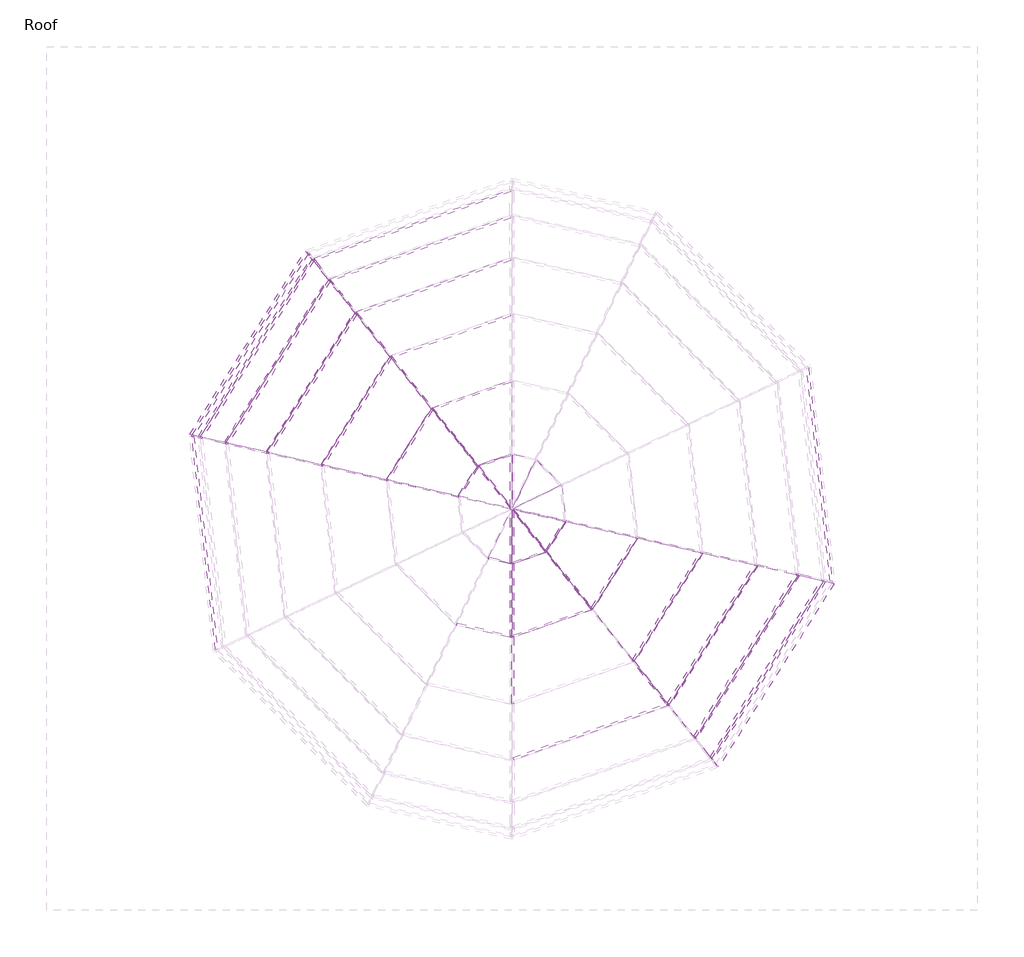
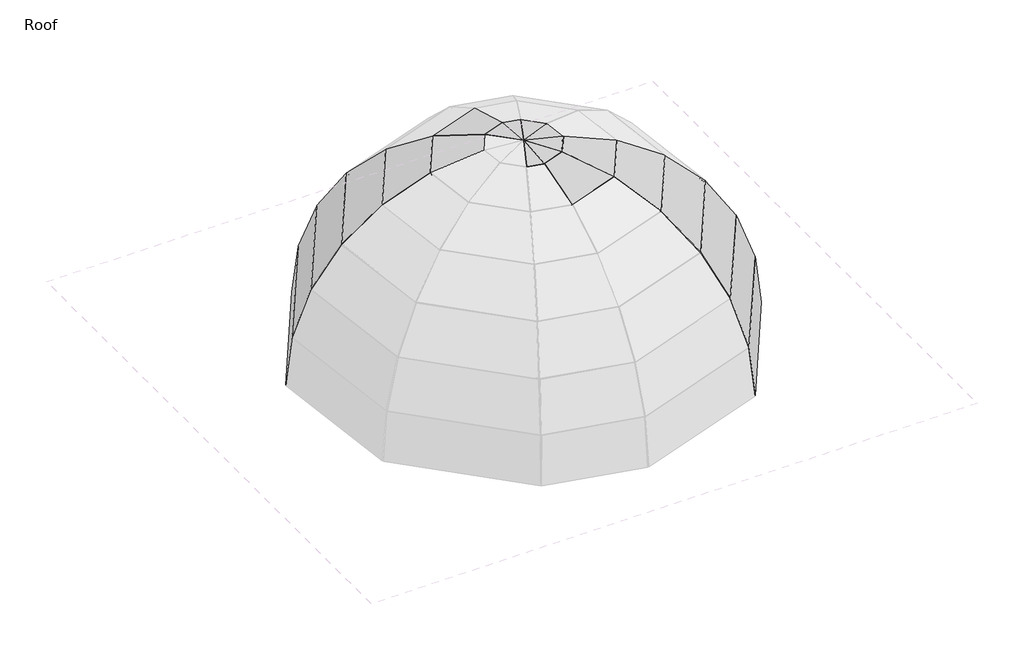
# One storey, part 2 of 3: 56 members, 21 plates.
"""IFC4 building model written with IfcOpenShell, lengths in millimetres."""

from ifc_helpers import new_model, si_unit, origin, place, context, project, spatial, transform, mapped, element, save
from components import member_656cd931, member_2d90878b, member_930283e5, member_073c649d, member_69438c30, member_4b421d57, member_ba738cde, member_c2c97b2d, member_1d24c50e, member_f6a73803, member_f69cc8ce, member_88023728, member_fe320f98, member_b04beb07, member_87472d51, member_b7d01548, member_1e756ab6, member_db3310ab, member_615ff259, member_2fdd2993, member_88dc7c51, member_19a4d049, member_8c9737d1, member_600e1e00, system_panel_glazed_566e1773, system_panel_glazed_15b653d3, system_panel_glazed_7bc4ba0a, system_panel_glazed_db51fd20, system_panel_glazed_c7a8e9dd, system_panel_glazed_54dd6e29, system_panel_glazed_a31f133a, system_panel_glazed_5800e615, system_panel_glazed_d5916fc8, system_panel_glazed_b874945b, system_panel_glazed_13e35390, system_panel_glazed_236f582e, system_panel_glazed_158996e0

model = new_model("IFC4")

# Units and contexts
model_context = context("Model", 3, world=origin())
ifc_project = project(units=[si_unit("LENGTHUNIT", "METRE", prefix="MILLI")], contexts=[model_context])

# Site, building, storey
site = spatial("IfcSite", under=ifc_project)
building = spatial("IfcBuilding", under=site)
storey = spatial("IfcBuildingStorey", under=building, Name="Roof", Elevation=15240.0)

# Members
placement = place(None, origin())
member_shape = member_656cd931(model_context)
element("IfcMember", 1, ObjectType="Rectangular Mullion : 1\" Square", at=placement, inside=storey, context=model_context, shape_type="MappedRepresentation", body=[
    mapped(member_shape, transform((245.314252, -40.0819495, 22859.9992944), x_axis=(0.9995722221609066, 0.00245611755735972, 0.029143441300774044), y_axis=(-0.029246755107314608, 0.08394322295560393, 0.9960412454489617), z_axis=(0.0, -0.9964675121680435, 0.0839791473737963))),
])
element("IfcMember", 2, ObjectType="Rectangular Mullion : 1\" Square", at=placement, inside=storey, context=model_context, shape_type="MappedRepresentation", body=[
    mapped(member_shape, transform((245.314252, -45.1619495, 22859.9992944), x_axis=(-0.9995722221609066, -0.0024561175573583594, 0.029143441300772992), y_axis=(0.02924675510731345, -0.08394322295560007, 0.996041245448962), z_axis=(0.0, 0.996467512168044, 0.08397914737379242))),
])
member_2_shape = member_2d90878b(model_context)
element("IfcMember", 3, ObjectType="Rectangular Mullion : 1\" Square", at=placement, inside=storey, context=model_context, shape_type="MappedRepresentation", body=[
    mapped(member_2_shape, transform((-2603.0395319, 3533.6980476, 18288.0), x_axis=(-0.782222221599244, -0.6229995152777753, 0.0), y_axis=(-0.618745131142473, 0.7768805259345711, 0.11666666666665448), z_axis=(-0.07268327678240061, 0.09125925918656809, -0.9931711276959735))),
])
element("IfcMember", 4, ObjectType="Rectangular Mullion : 1\" Square", at=placement, inside=storey, context=model_context, shape_type="MappedRepresentation", body=[
    mapped(member_2_shape, transform((-4210.7769964, 980.3320016, 18288.0), x_axis=(-0.22374320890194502, -0.9746481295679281, 0.0), y_axis=(-0.9679923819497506, 0.22221529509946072, 0.11666666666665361), z_axis=(-0.11370894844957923, 0.026103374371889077, -0.9931711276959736))),
])
element("IfcMember", 5, ObjectType="Rectangular Mullion : 1\" Square", at=placement, inside=storey, context=model_context, shape_type="MappedRepresentation", body=[
    mapped(member_2_shape, transform((4701.4055004, -1065.5759006, 18288.0), x_axis=(0.2237432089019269, 0.9746481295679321, 0.0), y_axis=(0.9679923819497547, -0.22221529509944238, 0.11666666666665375), z_axis=(0.11370894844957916, -0.026103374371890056, -0.9931711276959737))),
])
member_3_shape = member_930283e5(model_context)
element("IfcMember", 6, ObjectType="Rectangular Mullion : 1\" Square", at=placement, inside=storey, context=model_context, shape_type="MappedRepresentation", body=[
    mapped(member_3_shape, transform((-2513.5123796, 3440.5334561, 19347.514959), x_axis=(0.08074328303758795, -0.2309832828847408, 0.9696015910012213), y_axis=(-0.3199522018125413, 0.9152911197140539, 0.2446890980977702), z_axis=(-0.9439868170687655, -0.32998316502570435, 0.0))),
])
member_4_shape = member_073c649d(model_context)
element("IfcMember", 7, ObjectType="Rectangular Mullion : 1\" Square", at=placement, inside=storey, context=model_context, shape_type="MappedRepresentation", body=[
    mapped(member_4_shape, transform((-4082.7053732, 963.2319602, 19347.514959), x_axis=(0.2070616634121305, -0.13037723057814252, 0.9696015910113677), y_axis=(-0.8204996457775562, 0.5166309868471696, 0.2446890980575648), z_axis=(-0.5328281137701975, -0.8462234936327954, 0.0))),
])
element("IfcMember", 8, ObjectType="Rectangular Mullion : 1\" Square", at=placement, inside=storey, context=model_context, shape_type="MappedRepresentation", body=[
    mapped(member_4_shape, transform((4573.3338771, -1048.4758592, 19347.514959), x_axis=(-0.20706166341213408, 0.13037723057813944, 0.9696015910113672), y_axis=(0.8204996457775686, -0.5166309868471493, 0.24468909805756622), z_axis=(0.5328281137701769, 0.8462234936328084, 0.0))),
])
member_5_shape = member_69438c30(model_context)
element("IfcMember", 9, ObjectType="Rectangular Mullion : 1\" Square", at=placement, inside=storey, context=model_context, shape_type="MappedRepresentation", body=[
    mapped(member_5_shape, transform((-2285.1183622, 3153.7677825, 20349.3452147), x_axis=(0.1556834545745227, -0.44536553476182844, 0.8817098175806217), y_axis=(-0.29094939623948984, 0.8323224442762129, 0.47179211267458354), z_axis=(-0.9439868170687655, -0.3299831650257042, 0.0))),
])
member_6_shape = member_4b421d57(model_context)
element("IfcMember", 10, ObjectType="Rectangular Mullion : 1\" Square", at=placement, inside=storey, context=model_context, shape_type="MappedRepresentation", body=[
    mapped(member_6_shape, transform((-3725.3956219, 881.2068396, 20349.3452147), x_axis=(0.3992415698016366, -0.2513841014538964, 0.8817098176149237), y_axis=(-0.7461235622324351, 0.46979977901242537, 0.47179211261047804), z_axis=(-0.5328281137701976, -0.8462234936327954, 0.0))),
])
element("IfcMember", 11, ObjectType="Rectangular Mullion : 1\" Square", at=placement, inside=storey, context=model_context, shape_type="MappedRepresentation", body=[
    mapped(member_6_shape, transform((4216.0241258, -966.4507387, 20349.3452147), x_axis=(-0.39924156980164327, 0.25138410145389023, 0.8817098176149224), y_axis=(0.7461235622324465, -0.469799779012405, 0.47179211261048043), z_axis=(0.5328281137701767, 0.8462234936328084, 0.0))),
])
member_7_shape = member_ba738cde(model_context)
element("IfcMember", 12, ObjectType="Rectangular Mullion : 1\" Square", at=placement, inside=storey, context=model_context, shape_type="MappedRepresentation", body=[
    mapped(member_7_shape, transform((-1918.3036325, 2693.2046107, 21238.9466754), x_axis=(0.22008945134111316, -0.629612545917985, 0.7450829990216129), y_axis=(-0.24586484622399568, 0.7033485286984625, 0.6669717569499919), z_axis=(-0.9439868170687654, -0.3299831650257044, 0.0))),
])
element("IfcMember", 13, ObjectType="Rectangular Mullion : 1\" Square", at=placement, inside=storey, context=model_context, shape_type="MappedRepresentation", body=[
    mapped(member_7_shape, transform((2408.9321365, -2778.4485097, 21238.9466754), x_axis=(-0.22008945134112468, 0.6296125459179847, 0.7450829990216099), y_axis=(0.2458648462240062, -0.7033485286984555, 0.6669717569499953), z_axis=(0.94398681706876, 0.3299831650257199, 0.0))),
])
member_8_shape = member_c2c97b2d(model_context)
element("IfcMember", 14, ObjectType="Rectangular Mullion : 1\" Square", at=placement, inside=storey, context=model_context, shape_type="MappedRepresentation", body=[
    mapped(member_8_shape, transform((-3151.5343564, 749.4694904, 21238.9466754), x_axis=(0.5644071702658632, -0.35538130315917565, 0.7450829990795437), y_axis=(-0.6305067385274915, 0.39700116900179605, 0.6669717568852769), z_axis=(-0.5328281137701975, -0.8462234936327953, 0.0))),
])
element("IfcMember", 15, ObjectType="Rectangular Mullion : 1\" Square", at=placement, inside=storey, context=model_context, shape_type="MappedRepresentation", body=[
    mapped(member_8_shape, transform((3642.1628604, -834.7133895, 21238.9466754), x_axis=(-0.5644071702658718, 0.3553813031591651, 0.7450829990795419), y_axis=(0.6305067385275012, -0.3970011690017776, 0.6669717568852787), z_axis=(0.5328281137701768, 0.8462234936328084, 0.0))),
])
member_9_shape = member_1d24c50e(model_context)
element("IfcMember", 16, ObjectType="Rectangular Mullion : 1\" Square", at=placement, inside=storey, context=model_context, shape_type="MappedRepresentation", body=[
    mapped(member_9_shape, transform((-1433.0392147, 2083.9190467, 21967.8854838), x_axis=(0.27083883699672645, -0.7747919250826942, 0.5712650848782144), y_axis=(-0.18850786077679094, 0.5392667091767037, 0.8207656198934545), z_axis=(-0.9439868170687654, -0.3299831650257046, 0.0))),
])
member_10_shape = member_f6a73803(model_context)
element("IfcMember", 17, ObjectType="Rectangular Mullion : 1\" Square", at=placement, inside=storey, context=model_context, shape_type="MappedRepresentation", body=[
    mapped(member_10_shape, transform((-2392.3651346, 575.1922793, 21967.8854838), x_axis=(0.6945511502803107, -0.4373269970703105, 0.5712650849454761), y_axis=(-0.48341793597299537, 0.30438609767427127, 0.8207656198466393), z_axis=(-0.5328281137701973, -0.8462234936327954, 0.0))),
])
element("IfcMember", 18, ObjectType="Rectangular Mullion : 1\" Square", at=placement, inside=storey, context=model_context, shape_type="MappedRepresentation", body=[
    mapped(member_10_shape, transform((2882.9936385, -660.4361784, 21967.8854838), x_axis=(-0.6945511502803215, 0.43732699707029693, 0.5712650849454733), y_axis=(0.48341793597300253, -0.3043860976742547, 0.8207656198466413), z_axis=(0.5328281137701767, 0.8462234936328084, 0.0))),
])
member_11_shape = member_f69cc8ce(model_context)
element("IfcMember", 19, ObjectType="Rectangular Mullion : 1\" Square", at=placement, inside=storey, context=model_context, shape_type="MappedRepresentation", body=[
    mapped(member_11_shape, transform((-855.7450603, 1359.0833047, 22496.4749713), x_axis=(0.3063030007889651, -0.8762446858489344, 0.37198618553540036), y_axis=(-0.12274917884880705, 0.35115005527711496, 0.9282382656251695), z_axis=(-0.9439868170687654, -0.32998316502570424, 0.0))),
])
element("IfcMember", 20, ObjectType="Rectangular Mullion : 1\" Square", at=placement, inside=storey, context=model_context, shape_type="MappedRepresentation", body=[
    mapped(member_11_shape, transform((1346.3735642, -1444.3272037, 22496.4749713), x_axis=(-0.3063030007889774, 0.876244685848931, 0.37198618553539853), y_axis=(0.12274917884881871, -0.35115005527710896, 0.9282382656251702), z_axis=(0.94398681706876, 0.32998316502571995, 0.0))),
])
member_12_shape = member_88023728(model_context)
element("IfcMember", 21, ObjectType="Rectangular Mullion : 1\" Square", at=placement, inside=storey, context=model_context, shape_type="MappedRepresentation", body=[
    mapped(member_12_shape, transform((-1489.2205029, 367.8636323, 22496.4749713), x_axis=(0.7854970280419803, -0.4945914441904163, 0.3719861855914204), y_axis=(-0.3147834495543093, 0.198204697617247, 0.9282382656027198), z_axis=(-0.532828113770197, -0.8462234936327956, 0.0))),
])
element("IfcMember", 22, ObjectType="Rectangular Mullion : 1\" Square", at=placement, inside=storey, context=model_context, shape_type="MappedRepresentation", body=[
    mapped(member_12_shape, transform((1979.8490068, -453.1075314, 22496.4749713), x_axis=(-0.7854970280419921, 0.49459144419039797, 0.3719861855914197), y_axis=(0.31478344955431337, -0.19820469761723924, 0.92823826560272), z_axis=(0.5328281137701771, 0.846223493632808, 0.0))),
])
member_13_shape = member_fe320f98(model_context)
element("IfcMember", 23, ObjectType="Rectangular Mullion : 1\" Square", at=placement, inside=storey, context=model_context, shape_type="MappedRepresentation", body=[
    mapped(member_13_shape, transform((220.5581895, -1823.534074, 22496.4749713), x_axis=(0.20674485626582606, 0.900601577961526, 0.3823262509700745), y_axis=(-0.08554290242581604, -0.3726335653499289, 0.9240274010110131), z_axis=(0.9746481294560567, -0.22374320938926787, 0.0))),
])
member_14_shape = member_b04beb07(model_context)
element("IfcMember", 24, ObjectType="Rectangular Mullion : 1\" Square", at=placement, inside=storey, context=model_context, shape_type="MappedRepresentation", body=[
    mapped(member_14_shape, transform((-217.8516289, 558.1606638, 22795.9363771), x_axis=(0.3258534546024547, -0.9321729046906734, 0.1577124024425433), y_axis=(-0.05204243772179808, 0.14887842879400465, 0.9874850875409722), z_axis=(-0.9439868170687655, -0.3299831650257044, 0.0))),
])
element("IfcMember", 25, ObjectType="Rectangular Mullion : 1\" Square", at=placement, inside=storey, context=model_context, shape_type="MappedRepresentation", body=[
    mapped(member_14_shape, transform((708.4801329, -643.4045629, 22795.9363771), x_axis=(-0.32585345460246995, 0.9321729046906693, 0.15771240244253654), y_axis=(0.052042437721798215, -0.14887842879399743, 0.9874850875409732), z_axis=(0.9439868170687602, 0.32998316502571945, 0.0))),
])
member_15_shape = member_87472d51(model_context)
element("IfcMember", 26, ObjectType="Rectangular Mullion : 1\" Square", at=placement, inside=storey, context=model_context, shape_type="MappedRepresentation", body=[
    mapped(member_15_shape, transform((-491.271669, 138.7714424, 22795.9363771), x_axis=(0.8356330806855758, -0.5261598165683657, 0.1577124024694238), y_axis=(-0.13345994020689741, 0.08403360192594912, 0.987485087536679), z_axis=(-0.5328281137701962, -0.846223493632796, 0.0))),
])
element("IfcMember", 27, ObjectType="Rectangular Mullion : 1\" Square", at=placement, inside=storey, context=model_context, shape_type="MappedRepresentation", body=[
    mapped(member_15_shape, transform((981.900173, -224.0153415, 22795.9363771), x_axis=(-0.835633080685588, 0.5261598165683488, 0.1577124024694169), y_axis=(0.13345994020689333, -0.08403360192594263, 0.9874850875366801), z_axis=(0.5328281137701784, 0.8462234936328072, 0.0))),
])
member_16_shape = member_b7d01548(model_context)
element("IfcMember", 28, ObjectType="Rectangular Mullion : 1\" Square", at=placement, inside=storey, context=model_context, shape_type="MappedRepresentation", body=[
    mapped(member_16_shape, transform((220.5581895, -799.627288, 22795.9363771), x_axis=(0.22076190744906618, 0.9616612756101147, 0.16270147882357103), y_axis=(-0.03640335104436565, -0.15857669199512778, 0.9866753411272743), z_axis=(0.9746481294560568, -0.223743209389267, 0.0))),
])
member_17_shape = member_1e756ab6(model_context)
element("IfcMember", 29, ObjectType="Rectangular Mullion : 1\" Square", at=placement, inside=storey, context=model_context, shape_type="MappedRepresentation", body=[
    mapped(member_17_shape, transform((-2609.8064489, 3522.9510093, 18288.0), x_axis=(-0.09326525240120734, 0.05872485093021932, -0.9939079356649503), y_axis=(-0.841068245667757, 0.5295820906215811, 0.11021349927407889), z_axis=(0.5328281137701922, 0.8462234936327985, 0.0))),
])
element("IfcMember", 30, ObjectType="Rectangular Mullion : 1\" Square", at=placement, inside=storey, context=model_context, shape_type="MappedRepresentation", body=[
    mapped(member_17_shape, transform((-4209.3748296, 967.7096433, 18288.0), x_axis=(-0.10953970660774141, -0.012168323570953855, -0.9939079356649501), y_axis=(-0.9878316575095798, -0.10973422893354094, 0.1102134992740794), z_axis=(-0.1104068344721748, 0.9938864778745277, 0.0))),
])
element("IfcMember", 31, ObjectType="Rectangular Mullion : 1\" Square", at=placement, inside=storey, context=model_context, shape_type="MappedRepresentation", body=[
    mapped(member_17_shape, transform((4700.0033336, -1052.9535424, 18288.0), x_axis=(0.10953970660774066, 0.012168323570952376, -0.9939079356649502), y_axis=(0.9878316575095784, 0.10973422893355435, 0.11021349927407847), z_axis=(0.11040683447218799, -0.9938864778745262, 0.0))),
])
member_18_shape = member_db3310ab(model_context)
element("IfcMember", 32, ObjectType="Rectangular Mullion : 1\" Square", at=placement, inside=storey, context=model_context, shape_type="MappedRepresentation", body=[
    mapped(member_18_shape, transform((245.314252, -1829.2171515, 22496.4749713), x_axis=(0.997930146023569, -0.01805168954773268, 0.061721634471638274), y_axis=(-0.06430725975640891, -0.2801289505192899, 0.9578060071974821), z_axis=(0.0, -0.9597926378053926, -0.28070997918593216))),
])
member_19_shape = member_615ff259(model_context)
element("IfcMember", 33, ObjectType="Rectangular Mullion : 1\" Square", at=placement, inside=storey, context=model_context, shape_type="MappedRepresentation", body=[
    mapped(member_19_shape, transform((245.314252, -805.3103655, 22795.9363771), x_axis=(0.9998154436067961, -0.0016133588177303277, 0.019143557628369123), y_axis=(-0.019211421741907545, -0.08396364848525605, 0.9962836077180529), z_axis=(0.0, -0.9964675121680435, -0.08397914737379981))),
])
member_20_shape = member_2fdd2993(model_context)
element("IfcMember", 34, ObjectType="Rectangular Mullion : 1\" Square", at=placement, inside=storey, context=model_context, shape_type="MappedRepresentation", body=[
    mapped(member_20_shape, transform((245.314252, -1829.2171515, 22496.4749713), x_axis=(-0.9853292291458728, -0.0845625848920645, 0.148241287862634), y_axis=(0.170664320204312, -0.48822147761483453, 0.8558700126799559), z_axis=(0.0, 0.8686132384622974, 0.49549070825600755))),
])
member_21_shape = member_88dc7c51(model_context)
element("IfcMember", 35, ObjectType="Rectangular Mullion : 1\" Square", at=placement, inside=storey, context=model_context, shape_type="MappedRepresentation", body=[
    mapped(member_21_shape, transform((245.314252, -805.3103655, 22795.9363771), x_axis=(-0.9952201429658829, -0.027413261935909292, 0.09373035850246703), y_axis=(0.09765688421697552, -0.2793682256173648, 0.9552049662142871), z_axis=(0.0, 0.959792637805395, 0.2807099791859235))),
])
member_22_shape = member_19a4d049(model_context)
element("IfcMember", 36, ObjectType="Rectangular Mullion : 1\" Square", at=placement, inside=storey, context=model_context, shape_type="MappedRepresentation", body=[
    mapped(member_22_shape, transform((-2525.5010122, 3436.3426699, 19347.514959), x_axis=(-0.7822222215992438, -0.6229995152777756, 0.0), y_axis=(-0.5850578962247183, 0.7345836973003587, 0.3436481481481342), z_axis=(-0.21409262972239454, 0.26880921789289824, -0.9390984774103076))),
])
element("IfcMember", 37, ObjectType="Rectangular Mullion : 1\" Square", at=placement, inside=storey, context=model_context, shape_type="MappedRepresentation", body=[
    mapped(member_22_shape, transform((-2297.1069948, 3149.5769963, 20349.3452147), x_axis=(-0.7822222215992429, -0.6229995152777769, 0.0), y_axis=(-0.5195175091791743, 0.6522928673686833, 0.5519198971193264), z_axis=(-0.34384582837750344, 0.431724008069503, -0.8338971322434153))),
])
element("IfcMember", 38, ObjectType="Rectangular Mullion : 1\" Square", at=placement, inside=storey, context=model_context, shape_type="MappedRepresentation", body=[
    mapped(member_22_shape, transform((-1930.2922651, 2689.0138245, 21238.9466754), x_axis=(-0.7822222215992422, -0.6229995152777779, 0.0), y_axis=(-0.4256922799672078, 0.5344883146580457, 0.730142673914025), z_axis=(-0.4548785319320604, 0.571133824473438, -0.6832947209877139))),
])
element("IfcMember", 39, ObjectType="Rectangular Mullion : 1\" Square", at=placement, inside=storey, context=model_context, shape_type="MappedRepresentation", body=[
    mapped(member_22_shape, transform((-1445.0278472, 2079.7282605, 21967.8854838), x_axis=(-0.7822222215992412, -0.6229995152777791, 0.0), y_axis=(-0.30869047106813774, 0.38758384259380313, 0.8686132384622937), z_axis=(-0.5411456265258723, 0.6794485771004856, -0.4954907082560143))),
])
element("IfcMember", 40, ObjectType="Rectangular Mullion : 1\" Square", at=placement, inside=storey, context=model_context, shape_type="MappedRepresentation", body=[
    mapped(member_22_shape, transform((-4089.4722902, 952.4849218, 19347.514959), x_axis=(-0.22374320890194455, -0.9746481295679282, 0.0), y_axis=(-0.9152905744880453, 0.2101169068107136, 0.3436481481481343), z_axis=(-0.33493602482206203, 0.07688893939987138, -0.9390984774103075))),
])
element("IfcMember", 41, ObjectType="Rectangular Mullion : 1\" Square", at=placement, inside=storey, context=model_context, shape_type="MappedRepresentation", body=[
    mapped(member_22_shape, transform((-3732.1625389, 870.4598012, 20349.3452147), x_axis=(-0.22374320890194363, -0.9746481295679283, 0.0), y_axis=(-0.8127562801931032, 0.1865788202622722, 0.5519198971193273), z_axis=(-0.5379276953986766, 0.12348832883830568, -0.8338971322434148))),
])
element("IfcMember", 42, ObjectType="Rectangular Mullion : 1\" Square", at=placement, inside=storey, context=model_context, shape_type="MappedRepresentation", body=[
    mapped(member_22_shape, transform((-3158.3012735, 738.722452, 21238.9466754), x_axis=(-0.22374320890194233, -0.9746481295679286, 0.0), y_axis=(-0.6659719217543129, 0.15288255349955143, 0.7301426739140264), z_axis=(-0.7116321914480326, 0.1633644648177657, -0.6832947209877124))),
])
element("IfcMember", 43, ObjectType="Rectangular Mullion : 1\" Square", at=placement, inside=storey, context=model_context, shape_type="MappedRepresentation", body=[
    mapped(member_22_shape, transform((-2399.1320516, 564.445241, 21967.8854838), x_axis=(-0.22374320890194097, -0.9746481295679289, 0.0), y_axis=(-0.4829290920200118, 0.11086268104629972, 0.8686132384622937), z_axis=(-0.8465922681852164, 0.19434631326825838, -0.49549070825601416))),
])
element("IfcMember", 44, ObjectType="Rectangular Mullion : 1\" Square", at=placement, inside=storey, context=model_context, shape_type="MappedRepresentation", body=[
    mapped(member_22_shape, transform((2420.9207691, -2774.2577235, 21238.9466754), x_axis=(0.782222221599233, 0.6229995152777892, 0.0), y_axis=(0.42569227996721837, -0.5344883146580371, 0.7301426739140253), z_axis=(0.4548785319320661, -0.5711338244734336, -0.6832947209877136))),
])
element("IfcMember", 45, ObjectType="Rectangular Mullion : 1\" Square", at=placement, inside=storey, context=model_context, shape_type="MappedRepresentation", body=[
    mapped(member_22_shape, transform((4580.1007942, -1037.7288208, 19347.514959), x_axis=(0.2237432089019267, 0.9746481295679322, 0.0), y_axis=(0.9152905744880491, -0.21011690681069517, 0.3436481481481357), z_axis=(0.3349360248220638, -0.07688893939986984, -0.9390984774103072))),
])
element("IfcMember", 46, ObjectType="Rectangular Mullion : 1\" Square", at=placement, inside=storey, context=model_context, shape_type="MappedRepresentation", body=[
    mapped(member_22_shape, transform((4222.7910429, -955.7037003, 20349.3452147), x_axis=(0.22374320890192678, 0.9746481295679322, 0.0), y_axis=(0.8127562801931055, -0.18657882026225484, 0.5519198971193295), z_axis=(0.5379276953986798, -0.12348832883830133, -0.8338971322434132))),
])
element("IfcMember", 47, ObjectType="Rectangular Mullion : 1\" Square", at=placement, inside=storey, context=model_context, shape_type="MappedRepresentation", body=[
    mapped(member_22_shape, transform((3648.9297774, -823.9663511, 21238.9466754), x_axis=(0.22374320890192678, 0.9746481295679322, 0.0), y_axis=(0.6659719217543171, -0.15288255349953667, 0.7301426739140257), z_axis=(0.7116321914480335, -0.16336446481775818, -0.6832947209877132))),
])
element("IfcMember", 48, ObjectType="Rectangular Mullion : 1\" Square", at=placement, inside=storey, context=model_context, shape_type="MappedRepresentation", body=[
    mapped(member_22_shape, transform((2889.7605556, -649.68914, 21967.8854838), x_axis=(0.22374320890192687, 0.9746481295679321, 0.0), y_axis=(0.48292909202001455, -0.11086268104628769, 0.8686132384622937), z_axis=(0.8465922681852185, -0.19434631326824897, -0.4954907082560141))),
])
member_23_shape = member_8c9737d1(model_context)
element("IfcMember", 49, ObjectType="Rectangular Mullion : 1\" Square", at=placement, inside=storey, context=model_context, shape_type="MappedRepresentation", body=[
    mapped(member_23_shape, transform((-867.7336929, 1354.8925185, 22496.4749713), x_axis=(-0.7822222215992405, -0.62299951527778, 0.0), y_axis=(-0.17488218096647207, 0.21957758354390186, 0.9597926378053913), z_axis=(-0.5979503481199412, 0.7507711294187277, -0.2807099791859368))),
])
element("IfcMember", 50, ObjectType="Rectangular Mullion : 1\" Square", at=placement, inside=storey, context=model_context, shape_type="MappedRepresentation", body=[
    mapped(member_23_shape, transform((-1495.9874199, 357.116594, 22496.4749713), x_axis=(-0.22374320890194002, -0.9746481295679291, 0.0), y_axis=(-0.2735934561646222, 0.06280695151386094, 0.959792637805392), z_axis=(-0.9354600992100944, 0.21474708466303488, -0.28070997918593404))),
])
element("IfcMember", 51, ObjectType="Rectangular Mullion : 1\" Square", at=placement, inside=storey, context=model_context, shape_type="MappedRepresentation", body=[
    mapped(member_23_shape, transform((1358.3621968, -1440.1364175, 22496.4749713), x_axis=(0.7822222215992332, 0.622999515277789, 0.0), y_axis=(0.17488218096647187, -0.21957758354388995, 0.959792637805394), z_axis=(0.5979503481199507, -0.7507711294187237, -0.2807099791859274))),
])
element("IfcMember", 52, ObjectType="Rectangular Mullion : 1\" Square", at=placement, inside=storey, context=model_context, shape_type="MappedRepresentation", body=[
    mapped(member_23_shape, transform((1986.6159239, -442.360493, 22496.4749713), x_axis=(0.22374320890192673, 0.9746481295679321, 0.0), y_axis=(0.2735934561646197, -0.06280695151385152, 0.9597926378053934), z_axis=(0.9354600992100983, -0.21474708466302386, -0.2807099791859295))),
])
member_24_shape = member_600e1e00(model_context)
element("IfcMember", 53, ObjectType="Rectangular Mullion : 1\" Square", at=placement, inside=storey, context=model_context, shape_type="MappedRepresentation", body=[
    mapped(member_24_shape, transform((-229.8402615, 553.9698776, 22795.9363771), x_axis=(-0.7822222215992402, -0.6229995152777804, 0.0), y_axis=(-0.05231896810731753, 0.06569035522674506, 0.9964675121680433), z_axis=(-0.6207987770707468, 0.7794590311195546, -0.08397914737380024))),
])
element("IfcMember", 54, ObjectType="Rectangular Mullion : 1\" Square", at=placement, inside=storey, context=model_context, shape_type="MappedRepresentation", body=[
    mapped(member_24_shape, transform((-498.0385861, 128.0244041, 22795.9363771), x_axis=(-0.22374320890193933, -0.9746481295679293, 0.0), y_axis=(-0.08185011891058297, 0.01878976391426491, 0.9964675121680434), z_axis=(-0.9712051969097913, 0.22295283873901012, -0.08397914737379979))),
])
element("IfcMember", 55, ObjectType="Rectangular Mullion : 1\" Square", at=placement, inside=storey, context=model_context, shape_type="MappedRepresentation", body=[
    mapped(member_24_shape, transform((720.4687654, -639.2137767, 22795.9363771), x_axis=(0.782222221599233, 0.6229995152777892, 0.0), y_axis=(0.05231896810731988, -0.06569035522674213, 0.9964675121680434), z_axis=(0.6207987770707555, -0.7794590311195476, -0.08397914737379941))),
])
element("IfcMember", 56, ObjectType="Rectangular Mullion : 1\" Square", at=placement, inside=storey, context=model_context, shape_type="MappedRepresentation", body=[
    mapped(member_24_shape, transform((988.6670901, -213.2683031, 22795.9363771), x_axis=(0.22374320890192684, 0.9746481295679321, 0.0), y_axis=(0.08185011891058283, -0.018789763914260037, 0.9964675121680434), z_axis=(0.9712051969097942, -0.222952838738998, -0.08397914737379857))),
])

# Plates
system_panel_glazed_shape = system_panel_glazed_566e1773(model_context)
element("IfcPlate", 57, ObjectType="System Panel : Glazed", at=placement, inside=storey, context=model_context, shape_type="MappedRepresentation", body=[
    mapped(system_panel_glazed_shape, transform((3897.5367681, -2342.2589236, 18288.0), x_axis=(0.532828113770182, 0.846223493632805, 0.0), y_axis=(-0.8410682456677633, 0.5295820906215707, -0.11021349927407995), z_axis=(-0.09326525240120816, 0.058724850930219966, 0.9939079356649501))),
])
element("IfcPlate", 58, ObjectType="System Panel : Glazed", at=placement, inside=storey, context=model_context, shape_type="MappedRepresentation", body=[
    mapped(system_panel_glazed_shape, transform((-3406.9082641, 2257.0150246, 18288.0), x_axis=(-0.5328281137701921, -0.8462234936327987, 0.0), y_axis=(0.8410682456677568, -0.5295820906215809, -0.11021349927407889), z_axis=(0.09326525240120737, -0.0587248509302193, 0.9939079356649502))),
])
system_panel_glazed_2_shape = system_panel_glazed_15b653d3(model_context)
element("IfcPlate", 59, ObjectType="System Panel : Glazed", at=placement, inside=storey, context=model_context, shape_type="MappedRepresentation", body=[
    mapped(system_panel_glazed_2_shape, transform((3798.1151552, -2279.6576949, 19347.514959), x_axis=(0.5328281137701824, 0.8462234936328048, 0.0), y_axis=(-0.79984649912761, 0.5036266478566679, -0.3265054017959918), z_axis=(-0.2762965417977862, 0.17397125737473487, 0.9451953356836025))),
])
element("IfcPlate", 60, ObjectType="System Panel : Glazed", at=placement, inside=storey, context=model_context, shape_type="MappedRepresentation", body=[
    mapped(system_panel_glazed_2_shape, transform((-3307.4866512, 2194.4137959, 19347.514959), x_axis=(-0.5328281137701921, -0.8462234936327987, 0.0), y_axis=(0.7998464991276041, -0.5036266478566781, -0.3265054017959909), z_axis=(0.27629654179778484, -0.17397125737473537, 0.9451953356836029))),
])
system_panel_glazed_3_shape = system_panel_glazed_7bc4ba0a(model_context)
element("IfcPlate", 61, ObjectType="System Panel : Glazed", at=placement, inside=storey, context=model_context, shape_type="MappedRepresentation", body=[
    mapped(system_panel_glazed_3_shape, transform((3505.2632708, -2095.2622978, 20349.3452147), x_axis=(0.5328281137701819, 0.846223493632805, 0.0), y_axis=(-0.7176659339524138, 0.4518813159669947, -0.5298668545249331), z_axis=(-0.44838578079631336, 0.2823279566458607, 0.848080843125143))),
])
element("IfcPlate", 62, ObjectType="System Panel : Glazed", at=placement, inside=storey, context=model_context, shape_type="MappedRepresentation", body=[
    mapped(system_panel_glazed_3_shape, transform((-3014.6347669, 2010.0183988, 20349.3452147), x_axis=(-0.5328281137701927, -0.8462234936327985, 0.0), y_axis=(0.7176659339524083, -0.45188131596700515, -0.5298668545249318), z_axis=(0.44838578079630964, -0.2823279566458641, 0.8480808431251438))),
])
system_panel_glazed_4_shape = system_panel_glazed_db51fd20(model_context)
element("IfcPlate", 63, ObjectType="System Panel : Glazed", at=placement, inside=storey, context=model_context, shape_type="MappedRepresentation", body=[
    mapped(system_panel_glazed_4_shape, transform((3034.9252732, -1799.1120373, 21238.9466754), x_axis=(0.5328281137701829, 0.8462234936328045, 0.0), y_axis=(-0.5957706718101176, 0.37512946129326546, -0.7101656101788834), z_axis=(-0.6009588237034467, 0.378396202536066, 0.7040346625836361))),
])
element("IfcPlate", 64, ObjectType="System Panel : Glazed", at=placement, inside=storey, context=model_context, shape_type="MappedRepresentation", body=[
    mapped(system_panel_glazed_4_shape, transform((-2544.2967693, 1713.8681383, 21238.9466754), x_axis=(-0.5328281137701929, -0.8462234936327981, 0.0), y_axis=(0.5957706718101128, -0.37512946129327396, -0.7101656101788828), z_axis=(0.6009588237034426, -0.37839620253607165, 0.7040346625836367))),
])
system_panel_glazed_5_shape = system_panel_glazed_c7a8e9dd(model_context)
element("IfcPlate", 65, ObjectType="System Panel : Glazed", at=placement, inside=storey, context=model_context, shape_type="MappedRepresentation", body=[
    mapped(system_panel_glazed_5_shape, transform((2412.7084534, -1407.3306498, 21967.8854838), x_axis=(0.5328281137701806, 0.846223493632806, 0.0), y_axis=(-0.4376591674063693, 0.27557390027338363, -0.8558700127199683), z_axis=(-0.7242573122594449, 0.4560316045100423, 0.5171909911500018))),
])
element("IfcPlate", 66, ObjectType="System Panel : Glazed", at=placement, inside=storey, context=model_context, shape_type="MappedRepresentation", body=[
    mapped(system_panel_glazed_5_shape, transform((-1922.0799494, 1322.0867507, 21967.8854838), x_axis=(-0.532828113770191, -0.8462234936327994, 0.0), y_axis=(0.4376591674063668, -0.2755739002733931, -0.8558700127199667), z_axis=(0.7242573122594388, -0.45603160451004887, 0.5171909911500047))),
])
system_panel_glazed_6_shape = system_panel_glazed_54dd6e29(model_context)
element("IfcPlate", 67, ObjectType="System Panel : Glazed", at=placement, inside=storey, context=model_context, shape_type="MappedRepresentation", body=[
    mapped(system_panel_glazed_6_shape, transform((801.8382244, -1634.6767845, 22496.4749713), x_axis=(0.9439868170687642, 0.32998316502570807, 0.0), y_axis=(-0.09765688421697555, 0.27936822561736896, -0.955204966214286), z_axis=(-0.31520155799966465, 0.9017008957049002, 0.2959450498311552))),
])
element("IfcPlate", 68, ObjectType="System Panel : Glazed", at=placement, inside=storey, context=model_context, shape_type="MappedRepresentation", body=[
    mapped(system_panel_glazed_6_shape, transform((1672.4890604, -941.2484553, 22496.4749713), x_axis=(0.5328281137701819, 0.846223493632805, 0.0), y_axis=(-0.25043565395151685, 0.15768784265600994, -0.9552049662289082), z_axis=(-0.8083168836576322, 0.5089600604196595, 0.2959450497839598))),
])
element("IfcPlate", 69, ObjectType="System Panel : Glazed", at=placement, inside=storey, context=model_context, shape_type="MappedRepresentation", body=[
    mapped(system_panel_glazed_6_shape, transform((-311.2097204, 1549.4328855, 22496.4749713), x_axis=(-0.9439868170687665, -0.32998316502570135, 0.0), y_axis=(0.09765688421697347, -0.27936822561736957, -0.955204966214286), z_axis=(0.3152015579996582, -0.9017008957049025, 0.2959450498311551))),
])
element("IfcPlate", 70, ObjectType="System Panel : Glazed", at=placement, inside=storey, context=model_context, shape_type="MappedRepresentation", body=[
    mapped(system_panel_glazed_6_shape, transform((-1181.8605564, 856.0045562, 22496.4749713), x_axis=(-0.5328281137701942, -0.8462234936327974, 0.0), y_axis=(0.2504356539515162, -0.15768784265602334, -0.9552049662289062), z_axis=(0.8083168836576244, -0.5089600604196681, 0.2959450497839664))),
])
system_panel_glazed_7_shape = system_panel_glazed_a31f133a(model_context)
element("IfcPlate", 71, ObjectType="System Panel : Glazed", at=placement, inside=storey, context=model_context, shape_type="MappedRepresentation", body=[
    mapped(system_panel_glazed_7_shape, transform((482.8884113, -804.7285298, 22789.0095238), x_axis=(0.999572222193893, 0.0024480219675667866, -0.02914412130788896), y_axis=(-0.029246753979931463, 0.08366654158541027, -0.9960645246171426), z_axis=(0.0, 0.9964908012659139, 0.0837023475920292))),
])
system_panel_glazed_8_shape = system_panel_glazed_5800e615(model_context)
element("IfcPlate", 72, ObjectType="System Panel : Glazed", at=placement, inside=storey, context=model_context, shape_type="MappedRepresentation", body=[
    mapped(system_panel_glazed_8_shape, transform((617.7739373, -639.5795756, 22803.6517501), x_axis=(0.9971834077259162, 0.0035519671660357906, -0.0749175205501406), y_axis=(-0.07500167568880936, 0.04722511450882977, -0.9960645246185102), z_axis=(0.0, 0.9988779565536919, 0.04735850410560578))),
])
system_panel_glazed_9_shape = system_panel_glazed_d5916fc8(model_context)
element("IfcPlate", 73, ObjectType="System Panel : Glazed", at=placement, inside=storey, context=model_context, shape_type="MappedRepresentation", body=[
    mapped(system_panel_glazed_9_shape, transform((618.1266068, -212.9464014, 22828.7027936), x_axis=(0.9961125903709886, -0.0008653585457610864, -0.08808495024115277), y_axis=(-0.08808920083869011, -0.009785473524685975, -0.9960645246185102), z_axis=(0.0, 0.9999517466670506, -0.0098236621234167))),
])
system_panel_glazed_10_shape = system_panel_glazed_b874945b(model_context)
element("IfcPlate", 74, ObjectType="System Panel : Glazed", at=placement, inside=storey, context=model_context, shape_type="MappedRepresentation", body=[
    mapped(system_panel_glazed_10_shape, transform((589.7513524, -42.8866581, 22838.2973985), x_axis=(0.9980255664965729, -0.003935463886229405, -0.0626855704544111), y_axis=(-0.06280898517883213, -0.06253394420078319, -0.9960645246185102), z_axis=(0.0, 0.9980350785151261, -0.06265765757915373))),
])
system_panel_glazed_11_shape = system_panel_glazed_13e35390(model_context)
element("IfcPlate", 75, ObjectType="System Panel : Glazed", at=placement, inside=storey, context=model_context, shape_type="MappedRepresentation", body=[
    mapped(system_panel_glazed_11_shape, transform((411.6323666, -40.6197101, 22856.6247664), x_axis=(0.9998154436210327, -0.0016080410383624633, -0.01914400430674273), y_axis=(-0.019211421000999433, -0.08368689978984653, -0.996306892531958), z_axis=(0.0, 0.9964908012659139, -0.08370234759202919))),
])
system_panel_glazed_12_shape = system_panel_glazed_236f582e(model_context)
element("IfcPlate", 76, ObjectType="System Panel : Glazed", at=placement, inside=storey, context=model_context, shape_type="MappedRepresentation", body=[
    mapped(system_panel_glazed_12_shape, transform((7.7400926, -41.2308019, 22852.9074218), x_axis=(0.999572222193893, 0.002448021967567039, 0.029144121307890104), y_axis=(0.02924675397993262, -0.08366654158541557, -0.996064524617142), z_axis=(0.0, 0.9964908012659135, -0.08370234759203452))),
])
system_panel_glazed_13_shape = system_panel_glazed_158996e0(model_context)
element("IfcPlate", 77, ObjectType="System Panel : Glazed", at=placement, inside=storey, context=model_context, shape_type="MappedRepresentation", body=[
    mapped(system_panel_glazed_13_shape, transform((78.9961374, -805.0428698, 22792.7517947), x_axis=(0.9998154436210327, -0.0016080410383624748, 0.01914400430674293), y_axis=(0.01921142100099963, 0.08368689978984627, -0.996306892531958), z_axis=(0.0, 0.9964908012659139, 0.08370234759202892))),
])

save(model, "model.ifc")
